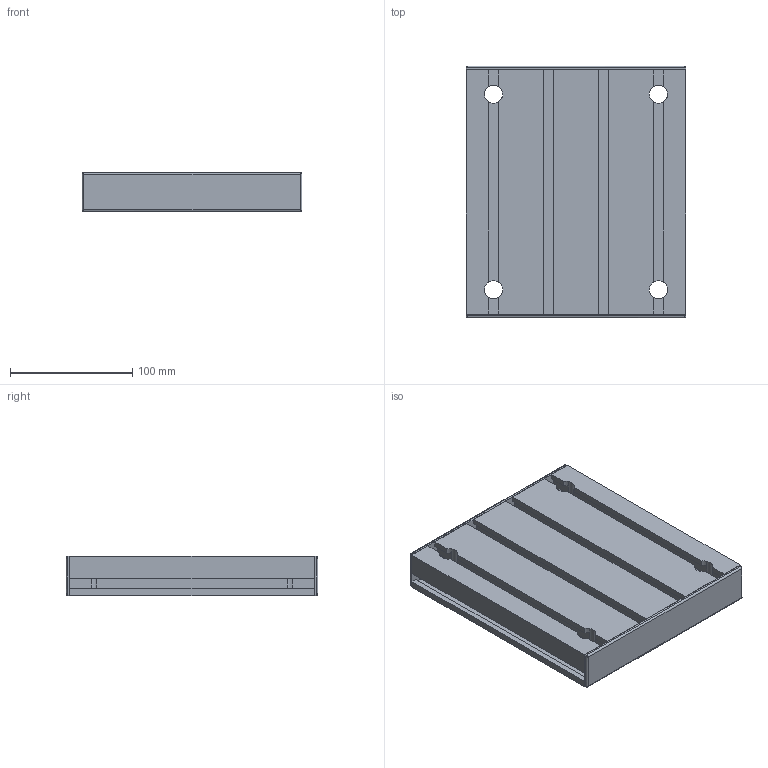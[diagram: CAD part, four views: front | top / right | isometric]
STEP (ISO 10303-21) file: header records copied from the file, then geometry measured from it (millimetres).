
FILE_DESCRIPTION((''),'2;1');
FILE_NAME('C:\Documents and Settings\Administrator\My Documents\Andys Backup Data\ANDY''S INVENTOR\INVENTOR LIBRARIES\MINITEC INVENTOR LIBRARIES\FEET WHEELS FLOOR FASTENING SUPPORTS\A PACKED FILES\STEP FILES\21.1734 FLOOR MOUNTING PLATE 90X180.stp','2010-06-28T08:43:47',('Administrator'),(''),'Autodesk Inventor 2009','Autodesk Inventor 2009','');
FILE_SCHEMA(('CONFIG_CONTROL_DESIGN'));
Length unit declared in the file: millimetre
Products named in the file (3): 21.1734 FLOOR MOUNTING PLATE 90X180; 22.1059_1 END CAP 32X180 GRAY
Assembly tree (3 placements, depth 2):
  21.1734 FLOOR MOUNTING PLATE 90X180
    21.1734 FLOOR MOUNTING PLATE 90X180
    22.1059_1 END CAP 32X180 GRAY  x2
Bounding box: 180 x 206 x 32 mm (x, y, z)
Volume: 738502.8 mm3; surface area: 239178.3 mm2
Topology: 3 solids, 3 shells, 229 faces, 635 edges, 408 vertices
Faces by surface type: plane 168, cylinder 47, bspline 8, torus 6
Full cylindrical faces by diameter (mm): 4.75 x6, 7.5 x11, 7.65 x6, 15 x4
Entity records: 7048 total; most frequent: CARTESIAN_POINT 1890, ORIENTED_EDGE 1054, DIRECTION 1012, EDGE_CURVE 527, VECTOR 414, LINE 414, VERTEX_POINT 361, AXIS2_PLACEMENT_3D 299
